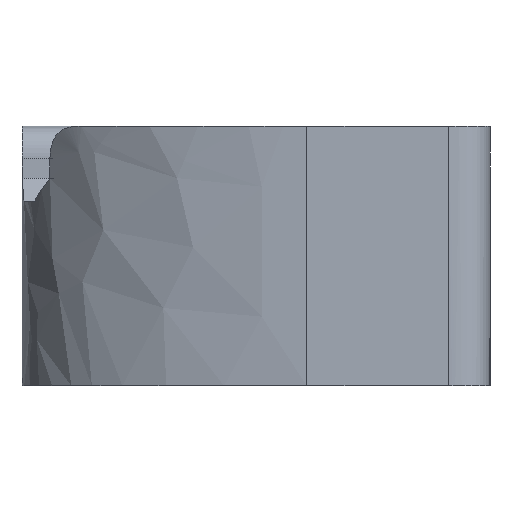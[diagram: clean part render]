
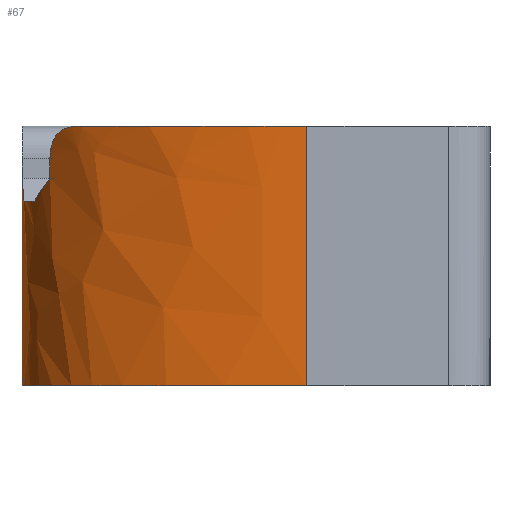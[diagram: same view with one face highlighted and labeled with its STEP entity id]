
A CAD part, left-side view. The second image highlights one B-rep face of the part: STEP entity #67.
In plain terms, the highlighted free-form (B-spline) face has degree [3, 1] with [4, 2] control points.
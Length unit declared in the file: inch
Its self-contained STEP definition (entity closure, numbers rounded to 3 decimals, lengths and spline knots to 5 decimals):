
#67=ADVANCED_FACE('',(#158),#159,.F.);
#158=FACE_OUTER_BOUND('',#277,.T.);
#159=B_SPLINE_SURFACE_WITH_KNOTS('',3,1,((#278,#279),(#280,#281),(#282,#283),(#284,#285)),.UNSPECIFIED.,.F.,.F.,.F.,(4,4),(2,2),(-1.0,-0.0),(0.0,0.5416),.UNSPECIFIED.);
#277=EDGE_LOOP('',(#784,#785,#786,#787,#788,#789,#790,#791,#792));
#278=CARTESIAN_POINT('',(0.22428,0.56242,0.0131));
#279=CARTESIAN_POINT('',(0.22428,0.56242,-0.5285));
#280=CARTESIAN_POINT('',(0.02392,0.56242,0.0131));
#281=CARTESIAN_POINT('',(0.02392,0.56242,-0.5285));
#282=CARTESIAN_POINT('',(-0.00001,0.27241,0.0131));
#283=CARTESIAN_POINT('',(-0.00001,0.27241,-0.5285));
#284=CARTESIAN_POINT('',(-0.00001,0.21857,0.0131));
#285=CARTESIAN_POINT('',(-0.00001,0.21857,-0.5285));
#784=ORIENTED_EDGE('',*,*,#1039,.F.);
#785=ORIENTED_EDGE('',*,*,#1047,.F.);
#786=ORIENTED_EDGE('',*,*,#1048,.F.);
#787=ORIENTED_EDGE('',*,*,#1049,.F.);
#788=ORIENTED_EDGE('',*,*,#1050,.F.);
#789=ORIENTED_EDGE('',*,*,#1051,.F.);
#790=ORIENTED_EDGE('',*,*,#1042,.F.);
#791=ORIENTED_EDGE('',*,*,#1052,.F.);
#792=ORIENTED_EDGE('',*,*,#1053,.T.);
#1039=EDGE_CURVE('',#1181,#1183,#1184,.T.);
#1042=EDGE_CURVE('',#1187,#1188,#1189,.T.);
#1047=EDGE_CURVE('',#1196,#1181,#1197,.T.);
#1048=EDGE_CURVE('',#1198,#1196,#1199,.T.);
#1049=EDGE_CURVE('',#1200,#1198,#1201,.T.);
#1050=EDGE_CURVE('',#1202,#1200,#1203,.T.);
#1051=EDGE_CURVE('',#1188,#1202,#1204,.T.);
#1052=EDGE_CURVE('',#1205,#1187,#1206,.T.);
#1053=EDGE_CURVE('',#1205,#1183,#1207,.T.);
#1181=VERTEX_POINT('',#1408);
#1183=VERTEX_POINT('',#1411);
#1184=B_SPLINE_CURVE_WITH_KNOTS('',3,(#1412,#1413,#1414,#1415),.UNSPECIFIED.,.F.,.F.,(4,4),(0.0,1.0),.UNSPECIFIED.);
#1187=VERTEX_POINT('',#1419);
#1188=VERTEX_POINT('',#1420);
#1189=B_SPLINE_CURVE_WITH_KNOTS('',3,(#1421,#1422,#1423,#1424,#1425,#1426),.UNSPECIFIED.,.F.,.F.,(4,2,4),(0.0,0.07132,0.1377),.UNSPECIFIED.);
#1196=VERTEX_POINT('',#1436);
#1197=B_SPLINE_CURVE_WITH_KNOTS('',3,(#1437,#1438,#1439,#1440,#1441,#1442),.UNSPECIFIED.,.F.,.F.,(4,2,4),(0.0,0.2708,0.37541),.UNSPECIFIED.);
#1198=VERTEX_POINT('',#1443);
#1199=B_SPLINE_CURVE_WITH_KNOTS('',3,(#1444,#1445,#1446,#1447,#1448,#1449,#1450,#1451),.UNSPECIFIED.,.F.,.F.,(4,2,2,4),(0.0,0.06653,0.15884,0.41539),.UNSPECIFIED.);
#1200=VERTEX_POINT('',#1452);
#1201=B_SPLINE_CURVE_WITH_KNOTS('',3,(#1453,#1454,#1455,#1456,#1457,#1458,#1459,#1460,#1461,#1462,#1463,#1464),.UNSPECIFIED.,.F.,.F.,(4,2,2,2,2,4),(0.0,0.01362,0.02445,0.03488,0.04804,0.06358),.UNSPECIFIED.);
#1202=VERTEX_POINT('',#1465);
#1203=B_SPLINE_CURVE_WITH_KNOTS('',3,(#1466,#1467,#1468,#1469),.UNSPECIFIED.,.F.,.F.,(4,4),(0.0,0.12322),.UNSPECIFIED.);
#1204=B_SPLINE_CURVE_WITH_KNOTS('',3,(#1470,#1471,#1472,#1473,#1474,#1475),.UNSPECIFIED.,.F.,.F.,(4,2,4),(0.0,0.08121,0.16032),.UNSPECIFIED.);
#1205=VERTEX_POINT('',#1476);
#1206=B_SPLINE_CURVE_WITH_KNOTS('',3,(#1477,#1478,#1479,#1480),.UNSPECIFIED.,.F.,.F.,(4,4),(0.0,0.09274),.UNSPECIFIED.);
#1207=LINE('',#1481,#1482);
#1408=CARTESIAN_POINT('',(0.0,0.22013,-0.31231));
#1411=CARTESIAN_POINT('',(0.22428,0.56242,-0.31231));
#1412=CARTESIAN_POINT('',(-0.00001,0.21857,-0.31231));
#1413=CARTESIAN_POINT('',(-0.00001,0.27241,-0.31231));
#1414=CARTESIAN_POINT('',(0.02392,0.56242,-0.31231));
#1415=CARTESIAN_POINT('',(0.22428,0.56242,-0.31231));
#1419=CARTESIAN_POINT('',(0.19321,0.55994,-0.09006));
#1420=CARTESIAN_POINT('',(0.15112,0.54728,-0.09006));
#1421=CARTESIAN_POINT('',(0.22428,0.56242,-0.09006));
#1422=CARTESIAN_POINT('',(0.2005,0.56242,-0.09006));
#1423=CARTESIAN_POINT('',(0.17739,0.55834,-0.09006));
#1424=CARTESIAN_POINT('',(0.13505,0.54064,-0.09006));
#1425=CARTESIAN_POINT('',(0.11701,0.52827,-0.09006));
#1426=CARTESIAN_POINT('',(0.10112,0.51288,-0.09006));
#1436=CARTESIAN_POINT('',(0.0,0.22013,0.0));
#1437=CARTESIAN_POINT('',(0.,0.22013,0.0131));
#1438=CARTESIAN_POINT('',(0.,0.22013,-0.07717));
#1439=CARTESIAN_POINT('',(0.,0.22013,-0.16743));
#1440=CARTESIAN_POINT('',(0.,0.22013,-0.29257));
#1441=CARTESIAN_POINT('',(0.,0.22013,-0.32744));
#1442=CARTESIAN_POINT('',(0.,0.22013,-0.36231));
#1443=CARTESIAN_POINT('',(0.08165,0.49123,0.0));
#1444=CARTESIAN_POINT('',(0.13165,0.53687,0.0));
#1445=CARTESIAN_POINT('',(0.11283,0.52515,0.0));
#1446=CARTESIAN_POINT('',(0.09667,0.50999,0.));
#1447=CARTESIAN_POINT('',(0.06357,0.46866,0.));
#1448=CARTESIAN_POINT('',(0.04881,0.44057,0.));
#1449=CARTESIAN_POINT('',(0.00606,0.33242,0.));
#1450=CARTESIAN_POINT('',(-0.00001,0.24574,0.));
#1451=CARTESIAN_POINT('',(-0.00001,0.21857,0.));
#1452=CARTESIAN_POINT('',(0.11987,0.52884,-0.03944));
#1453=CARTESIAN_POINT('',(0.11987,0.52884,-0.03944));
#1454=CARTESIAN_POINT('',(0.11987,0.52884,-0.0349));
#1455=CARTESIAN_POINT('',(0.1193,0.52843,-0.02965));
#1456=CARTESIAN_POINT('',(0.11647,0.52626,-0.02046));
#1457=CARTESIAN_POINT('',(0.11468,0.52487,-0.01677));
#1458=CARTESIAN_POINT('',(0.11014,0.52111,-0.01052));
#1459=CARTESIAN_POINT('',(0.10757,0.5189,-0.00811));
#1460=CARTESIAN_POINT('',(0.10129,0.51312,-0.00384));
#1461=CARTESIAN_POINT('',(0.09758,0.50945,-0.00237));
#1462=CARTESIAN_POINT('',(0.08977,0.5011,-0.00036));
#1463=CARTESIAN_POINT('',(0.08556,0.49618,0.0));
#1464=CARTESIAN_POINT('',(0.08165,0.49123,0.0));
#1465=CARTESIAN_POINT('',(0.11987,0.52884,-0.06266));
#1466=CARTESIAN_POINT('',(0.11987,0.52884,-0.11266));
#1467=CARTESIAN_POINT('',(0.11987,0.52884,-0.07159));
#1468=CARTESIAN_POINT('',(0.11987,0.52884,-0.03052));
#1469=CARTESIAN_POINT('',(0.11987,0.52884,0.01056));
#1470=CARTESIAN_POINT('',(0.18872,0.55914,-0.12302));
#1471=CARTESIAN_POINT('',(0.16857,0.55529,-0.10536));
#1472=CARTESIAN_POINT('',(0.14912,0.5479,-0.0883));
#1473=CARTESIAN_POINT('',(0.11282,0.52498,-0.05648));
#1474=CARTESIAN_POINT('',(0.09668,0.51013,-0.04233));
#1475=CARTESIAN_POINT('',(0.08228,0.49202,-0.0297));
#1476=CARTESIAN_POINT('',(0.22428,0.56242,-0.0632));
#1477=CARTESIAN_POINT('',(0.22428,0.56242,-0.0632));
#1478=CARTESIAN_POINT('',(0.20089,0.56242,-0.08342));
#1479=CARTESIAN_POINT('',(0.17768,0.55847,-0.10349));
#1480=CARTESIAN_POINT('',(0.15539,0.54914,-0.12276));
#1481=CARTESIAN_POINT('',(0.22428,0.56242,0.0131));
#1482=VECTOR('',#1815,1.0);
#1815=DIRECTION('',(0.0,0.0,-1.0));
